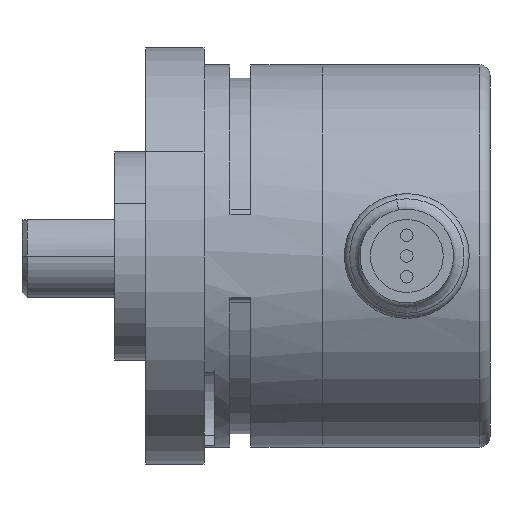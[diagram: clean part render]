
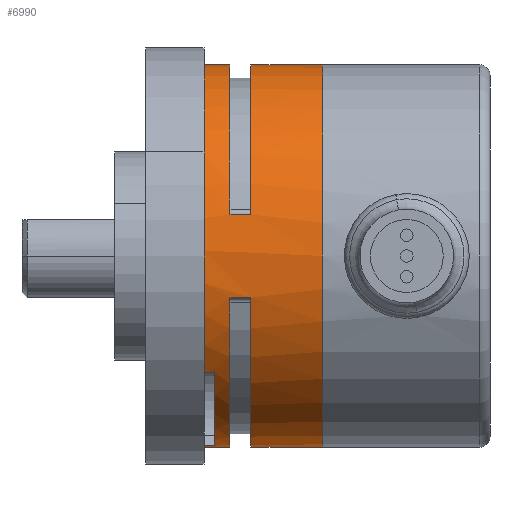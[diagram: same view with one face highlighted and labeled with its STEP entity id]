
A CAD part, front view. The second image highlights one B-rep face of the part: STEP entity #6990.
In plain terms, the highlighted cylindrical face has radius 18.4 mm (diameter 36.8 mm), a partial arc.
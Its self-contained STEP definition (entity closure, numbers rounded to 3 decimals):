
#276 = ORIENTED_EDGE ( 'NONE', *, *, #26393, .T. ) ;
#279 = EDGE_CURVE ( 'NONE', #280, #26336, #2002, .T. ) ;
#280 = VERTEX_POINT ( 'NONE', #1993 ) ;
#281 = ORIENTED_EDGE ( 'NONE', *, *, #26351, .F. ) ;
#282 = ORIENTED_EDGE ( 'NONE', *, *, #279, .F. ) ;
#283 = ORIENTED_EDGE ( 'NONE', *, *, #7133, .F. ) ;
#286 = ORIENTED_EDGE ( 'NONE', *, *, #301, .F. ) ;
#287 = EDGE_CURVE ( 'NONE', #293, #288, #1991, .T. ) ;
#288 = VERTEX_POINT ( 'NONE', #2042 ) ;
#290 = ORIENTED_EDGE ( 'NONE', *, *, #292, .T. ) ;
#291 = ORIENTED_EDGE ( 'NONE', *, *, #359, .T. ) ;
#292 = EDGE_CURVE ( 'NONE', #26381, #293, #2037, .T. ) ;
#293 = VERTEX_POINT ( 'NONE', #2032 ) ;
#294 = EDGE_CURVE ( 'NONE', #295, #6940, #2031, .T. ) ;
#295 = VERTEX_POINT ( 'NONE', #2027 ) ;
#296 = ORIENTED_EDGE ( 'NONE', *, *, #6960, .F. ) ;
#297 = ORIENTED_EDGE ( 'NONE', *, *, #294, .F. ) ;
#301 = EDGE_CURVE ( 'NONE', #16112, #288, #2019, .T. ) ;
#302 = ORIENTED_EDGE ( 'NONE', *, *, #26353, .T. ) ;
#305 = ORIENTED_EDGE ( 'NONE', *, *, #287, .T. ) ;
#306 = ORIENTED_EDGE ( 'NONE', *, *, #307, .T. ) ;
#307 = EDGE_CURVE ( 'NONE', #311, #7247, #2057, .T. ) ;
#308 = EDGE_CURVE ( 'NONE', #311, #295, #2049, .T. ) ;
#310 = ORIENTED_EDGE ( 'NONE', *, *, #308, .F. ) ;
#311 = VERTEX_POINT ( 'NONE', #2044 ) ;
#352 = ORIENTED_EDGE ( 'NONE', *, *, #353, .F. ) ;
#353 = EDGE_CURVE ( 'NONE', #354, #280, #2198, .T. ) ;
#354 = VERTEX_POINT ( 'NONE', #2194 ) ;
#357 = EDGE_CURVE ( 'NONE', #354, #26317, #2235, .T. ) ;
#358 = ORIENTED_EDGE ( 'NONE', *, *, #357, .T. ) ;
#359 = EDGE_CURVE ( 'NONE', #26318, #26324, #2231, .T. ) ;
#1988 = DIRECTION ( 'NONE',  ( -1., 0., 0. ) ) ;
#1989 = VECTOR ( 'NONE', #1988, 1000. ) ;
#1990 = CARTESIAN_POINT ( 'NONE',  ( -42.611, -12.845, 4. ) ) ;
#1991 = LINE ( 'NONE', #1990, #1989 ) ;
#1993 = CARTESIAN_POINT ( 'NONE',  ( -44.611, -12.845, -4. ) ) ;
#1994 = DIRECTION ( 'NONE',  ( 0., 0., -1. ) ) ;
#1995 = DIRECTION ( 'NONE',  ( 1., 0., 0. ) ) ;
#1996 = CARTESIAN_POINT ( 'NONE',  ( -44.611, 5.115, 0. ) ) ;
#1997 = AXIS2_PLACEMENT_3D ( 'NONE', #1996, #1995, #1994 ) ;
#2002 = CIRCLE ( 'NONE', #1997, 18.4 ) ;
#2015 = DIRECTION ( 'NONE',  ( 0., 0., -1. ) ) ;
#2016 = DIRECTION ( 'NONE',  ( 1., 0., 0. ) ) ;
#2017 = CARTESIAN_POINT ( 'NONE',  ( -44.611, 5.115, 0. ) ) ;
#2018 = AXIS2_PLACEMENT_3D ( 'NONE', #2017, #2016, #2015 ) ;
#2019 = CIRCLE ( 'NONE', #2018, 18.4 ) ;
#2027 = CARTESIAN_POINT ( 'NONE',  ( -46.111, -9.456, -11.237 ) ) ;
#2028 = DIRECTION ( 'NONE',  ( -1., 0., 0. ) ) ;
#2029 = VECTOR ( 'NONE', #2028, 1000. ) ;
#2030 = CARTESIAN_POINT ( 'NONE',  ( -46.111, -9.456, -11.237 ) ) ;
#2031 = LINE ( 'NONE', #2030, #2029 ) ;
#2032 = CARTESIAN_POINT ( 'NONE',  ( -42.611, -12.845, 4. ) ) ;
#2033 = DIRECTION ( 'NONE',  ( 0., 0., -1. ) ) ;
#2034 = DIRECTION ( 'NONE',  ( 1., 0., 0. ) ) ;
#2035 = CARTESIAN_POINT ( 'NONE',  ( -42.611, 5.115, 0. ) ) ;
#2036 = AXIS2_PLACEMENT_3D ( 'NONE', #2035, #2034, #2033 ) ;
#2037 = CIRCLE ( 'NONE', #2036, 18.4 ) ;
#2042 = CARTESIAN_POINT ( 'NONE',  ( -44.611, -12.845, 4. ) ) ;
#2044 = CARTESIAN_POINT ( 'NONE',  ( -46.111, 2.669, -18.237 ) ) ;
#2045 = DIRECTION ( 'NONE',  ( 0., 0., 1. ) ) ;
#2046 = DIRECTION ( 'NONE',  ( -1., 0., 0. ) ) ;
#2047 = CARTESIAN_POINT ( 'NONE',  ( -46.111, 5.115, 0. ) ) ;
#2048 = AXIS2_PLACEMENT_3D ( 'NONE', #2047, #2046, #2045 ) ;
#2049 = CIRCLE ( 'NONE', #2048, 18.4 ) ;
#2050 = DIRECTION ( 'NONE',  ( -1., 0., 0. ) ) ;
#2051 = VECTOR ( 'NONE', #2050, 1000. ) ;
#2052 = CARTESIAN_POINT ( 'NONE',  ( -46.111, 2.669, -18.237 ) ) ;
#2057 = LINE ( 'NONE', #2052, #2051 ) ;
#2194 = CARTESIAN_POINT ( 'NONE',  ( -42.611, -12.845, -4. ) ) ;
#2195 = DIRECTION ( 'NONE',  ( -1., 0., 0. ) ) ;
#2196 = VECTOR ( 'NONE', #2195, 1000. ) ;
#2197 = CARTESIAN_POINT ( 'NONE',  ( -42.611, -12.845, -4. ) ) ;
#2198 = LINE ( 'NONE', #2197, #2196 ) ;
#2227 = DIRECTION ( 'NONE',  ( 0., 0., 1. ) ) ;
#2228 = DIRECTION ( 'NONE',  ( -1., 0., 0. ) ) ;
#2229 = CARTESIAN_POINT ( 'NONE',  ( -35.711, 5.115, 0. ) ) ;
#2230 = AXIS2_PLACEMENT_3D ( 'NONE', #2229, #2228, #2227 ) ;
#2231 = CIRCLE ( 'NONE', #2230, 18.4 ) ;
#2232 = DIRECTION ( 'NONE',  ( 0., 0., -1. ) ) ;
#2233 = DIRECTION ( 'NONE',  ( 1., 0., 0. ) ) ;
#2234 = AXIS2_PLACEMENT_3D ( 'NONE', #2240, #2233, #2232 ) ;
#2235 = CIRCLE ( 'NONE', #2234, 18.4 ) ;
#2240 = CARTESIAN_POINT ( 'NONE',  ( -42.611, 5.115, 0. ) ) ;
#5959 = CARTESIAN_POINT ( 'NONE',  ( -47.111, -9.456, -11.237 ) ) ;
#6008 = CIRCLE ( 'NONE', #6051, 18.4 ) ;
#6048 = DIRECTION ( 'NONE',  ( 0., 0., 1. ) ) ;
#6049 = DIRECTION ( 'NONE',  ( -1., 0., 0. ) ) ;
#6050 = CARTESIAN_POINT ( 'NONE',  ( -47.111, 5.115, 0. ) ) ;
#6051 = AXIS2_PLACEMENT_3D ( 'NONE', #6050, #6049, #6048 ) ;
#6100 = FACE_OUTER_BOUND ( 'NONE', #6984, .T. ) ;
#6129 = DIRECTION ( 'NONE',  ( 0., 0., 1. ) ) ;
#6130 = DIRECTION ( 'NONE',  ( -1., 0., 0. ) ) ;
#6131 = AXIS2_PLACEMENT_3D ( 'NONE', #6135, #6130, #6129 ) ;
#6132 = CYLINDRICAL_SURFACE ( 'NONE', #6131, 18.4 ) ;
#6135 = CARTESIAN_POINT ( 'NONE',  ( -52.111, 5.115, 0. ) ) ;
#6683 = CIRCLE ( 'NONE', #6739, 18.4 ) ;
#6736 = DIRECTION ( 'NONE',  ( 0., 0., 1. ) ) ;
#6737 = DIRECTION ( 'NONE',  ( -1., 0., 0. ) ) ;
#6738 = CARTESIAN_POINT ( 'NONE',  ( -47.111, 5.115, 0. ) ) ;
#6739 = AXIS2_PLACEMENT_3D ( 'NONE', #6738, #6737, #6736 ) ;
#6922 = ORIENTED_EDGE ( 'NONE', *, *, #16893, .F. ) ;
#6940 = VERTEX_POINT ( 'NONE', #5959 ) ;
#6960 = EDGE_CURVE ( 'NONE', #6940, #18402, #6008, .T. ) ;
#6984 = EDGE_LOOP ( 'NONE', ( #6922, #291, #276, #290, #305, #286, #302, #296, #297, #310, #306, #283, #281, #282, #352, #358 ) ) ;
#6990 = ADVANCED_FACE ( 'NONE', ( #6100 ), #6132, .T. ) ;
#7133 = EDGE_CURVE ( 'NONE', #26349, #7247, #6683, .T. ) ;
#7247 = VERTEX_POINT ( 'NONE', #18516 ) ;
#16112 = VERTEX_POINT ( 'NONE', #17425 ) ;
#16893 = EDGE_CURVE ( 'NONE', #26318, #26317, #17509, .T. ) ;
#17425 = CARTESIAN_POINT ( 'NONE',  ( -44.611, 5.115, 18.4 ) ) ;
#17506 = DIRECTION ( 'NONE',  ( -1., 0., 0. ) ) ;
#17507 = VECTOR ( 'NONE', #17506, 1000. ) ;
#17508 = CARTESIAN_POINT ( 'NONE',  ( -52.111, 5.115, -18.4 ) ) ;
#17509 = LINE ( 'NONE', #17508, #17507 ) ;
#17746 = CARTESIAN_POINT ( 'NONE',  ( -47.111, 5.115, 18.4 ) ) ;
#18402 = VERTEX_POINT ( 'NONE', #17746 ) ;
#18516 = CARTESIAN_POINT ( 'NONE',  ( -47.111, 2.669, -18.237 ) ) ;
#25739 = CARTESIAN_POINT ( 'NONE',  ( -35.711, 5.115, 18.4 ) ) ;
#25745 = CARTESIAN_POINT ( 'NONE',  ( -35.711, 5.115, -18.4 ) ) ;
#25746 = CARTESIAN_POINT ( 'NONE',  ( -42.611, 5.115, -18.4 ) ) ;
#25769 = CARTESIAN_POINT ( 'NONE',  ( -44.611, 5.115, -18.4 ) ) ;
#25802 = DIRECTION ( 'NONE',  ( -1., 0., 0. ) ) ;
#25803 = VECTOR ( 'NONE', #25802, 1000. ) ;
#25804 = CARTESIAN_POINT ( 'NONE',  ( -52.111, 5.115, 18.4 ) ) ;
#25805 = LINE ( 'NONE', #25804, #25803 ) ;
#25806 = DIRECTION ( 'NONE',  ( -1., 0., 0. ) ) ;
#25807 = VECTOR ( 'NONE', #25806, 1000. ) ;
#25808 = CARTESIAN_POINT ( 'NONE',  ( -52.111, 5.115, -18.4 ) ) ;
#25814 = LINE ( 'NONE', #25808, #25807 ) ;
#25815 = CARTESIAN_POINT ( 'NONE',  ( -47.111, 5.115, -18.4 ) ) ;
#25891 = CARTESIAN_POINT ( 'NONE',  ( -42.611, 5.115, 18.4 ) ) ;
#25926 = DIRECTION ( 'NONE',  ( -1., 0., 0. ) ) ;
#25927 = VECTOR ( 'NONE', #25926, 1000. ) ;
#25928 = CARTESIAN_POINT ( 'NONE',  ( -52.111, 5.115, 18.4 ) ) ;
#25929 = LINE ( 'NONE', #25928, #25927 ) ;
#26317 = VERTEX_POINT ( 'NONE', #25746 ) ;
#26318 = VERTEX_POINT ( 'NONE', #25745 ) ;
#26324 = VERTEX_POINT ( 'NONE', #25739 ) ;
#26336 = VERTEX_POINT ( 'NONE', #25769 ) ;
#26349 = VERTEX_POINT ( 'NONE', #25815 ) ;
#26351 = EDGE_CURVE ( 'NONE', #26336, #26349, #25814, .T. ) ;
#26353 = EDGE_CURVE ( 'NONE', #16112, #18402, #25805, .T. ) ;
#26381 = VERTEX_POINT ( 'NONE', #25891 ) ;
#26393 = EDGE_CURVE ( 'NONE', #26324, #26381, #25929, .T. ) ;
